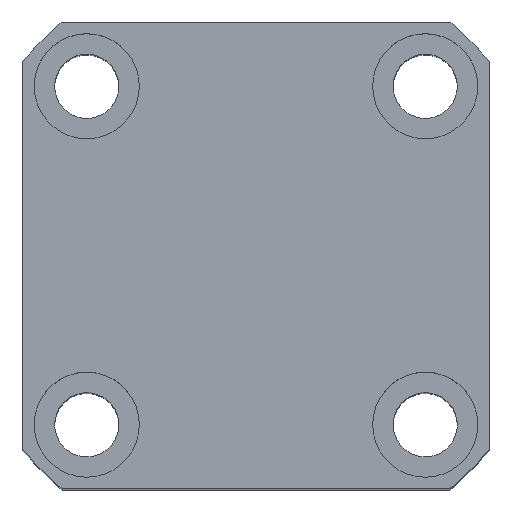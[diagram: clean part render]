
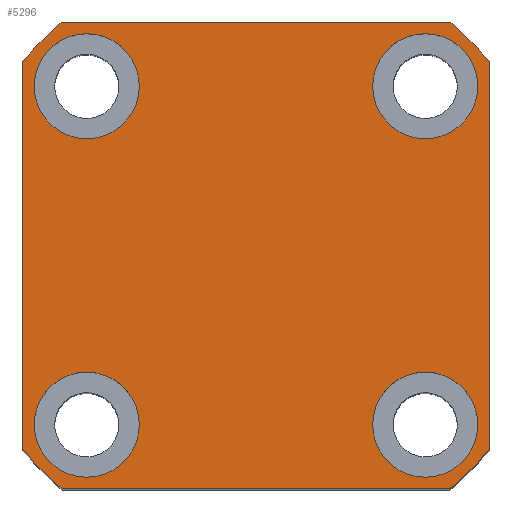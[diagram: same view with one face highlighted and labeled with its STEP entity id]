
A CAD part, top view. The second image highlights one B-rep face of the part: STEP entity #5296.
In plain terms, the highlighted planar face has unit normal (0, 0, 1).
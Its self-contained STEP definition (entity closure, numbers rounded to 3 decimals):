
#2930=FACE_BOUND('',#6324,.T.);
#2931=FACE_BOUND('',#6325,.T.);
#2932=FACE_BOUND('',#6326,.T.);
#2933=FACE_BOUND('',#6327,.T.);
#2934=FACE_BOUND('',#6328,.T.);
#3064=LINE('',#24044,#3921);
#3072=LINE('',#24777,#3929);
#3076=LINE('',#24789,#3933);
#3080=LINE('',#24801,#3937);
#3921=VECTOR('',#13139,1.);
#3929=VECTOR('',#13303,1.);
#3933=VECTOR('',#13315,1.);
#3937=VECTOR('',#13327,1.);
#4855=PLANE('',#12540);
#5296=ADVANCED_FACE('',(#2930,#2931,#2932,#2933,#2934),#4855,.T.);
#6324=EDGE_LOOP('',(#7560));
#6325=EDGE_LOOP('',(#7561));
#6326=EDGE_LOOP('',(#7562));
#6327=EDGE_LOOP('',(#7563));
#6328=EDGE_LOOP('',(#7564,#7565,#7566,#7567,#7568,#7569,#7570,#7571));
#6832=CIRCLE('',#12489,9.);
#6834=CIRCLE('',#12492,9.);
#6836=CIRCLE('',#12495,9.);
#6838=CIRCLE('',#12498,9.);
#6857=CIRCLE('',#12526,52.);
#6859=CIRCLE('',#12530,52.);
#6861=CIRCLE('',#12534,52.);
#6863=CIRCLE('',#12538,52.);
#7560=ORIENTED_EDGE('',*,*,#10955,.F.);
#7561=ORIENTED_EDGE('',*,*,#10957,.F.);
#7562=ORIENTED_EDGE('',*,*,#10959,.F.);
#7563=ORIENTED_EDGE('',*,*,#10961,.F.);
#7564=ORIENTED_EDGE('',*,*,#10981,.T.);
#7565=ORIENTED_EDGE('',*,*,#10984,.T.);
#7566=ORIENTED_EDGE('',*,*,#10987,.T.);
#7567=ORIENTED_EDGE('',*,*,#10990,.T.);
#7568=ORIENTED_EDGE('',*,*,#10993,.T.);
#7569=ORIENTED_EDGE('',*,*,#10996,.T.);
#7570=ORIENTED_EDGE('',*,*,#10998,.T.);
#7571=ORIENTED_EDGE('',*,*,#10883,.T.);
#9848=VERTEX_POINT('',#24043);
#9849=VERTEX_POINT('',#24045);
#9917=VERTEX_POINT('',#24708);
#9919=VERTEX_POINT('',#24713);
#9921=VERTEX_POINT('',#24718);
#9923=VERTEX_POINT('',#24723);
#9942=VERTEX_POINT('',#24770);
#9944=VERTEX_POINT('',#24776);
#9946=VERTEX_POINT('',#24782);
#9948=VERTEX_POINT('',#24788);
#9950=VERTEX_POINT('',#24794);
#9952=VERTEX_POINT('',#24800);
#10883=EDGE_CURVE('',#9849,#9848,#3064,.T.);
#10955=EDGE_CURVE('',#9917,#9917,#6832,.T.);
#10957=EDGE_CURVE('',#9919,#9919,#6834,.T.);
#10959=EDGE_CURVE('',#9921,#9921,#6836,.T.);
#10961=EDGE_CURVE('',#9923,#9923,#6838,.T.);
#10981=EDGE_CURVE('',#9848,#9942,#6857,.T.);
#10984=EDGE_CURVE('',#9942,#9944,#3072,.T.);
#10987=EDGE_CURVE('',#9944,#9946,#6859,.T.);
#10990=EDGE_CURVE('',#9946,#9948,#3076,.T.);
#10993=EDGE_CURVE('',#9948,#9950,#6861,.T.);
#10996=EDGE_CURVE('',#9950,#9952,#3080,.T.);
#10998=EDGE_CURVE('',#9952,#9849,#6863,.T.);
#12489=AXIS2_PLACEMENT_3D('',#24707,#13222,#13223);
#12492=AXIS2_PLACEMENT_3D('',#24712,#13228,#13229);
#12495=AXIS2_PLACEMENT_3D('',#24717,#13234,#13235);
#12498=AXIS2_PLACEMENT_3D('',#24722,#13240,#13241);
#12526=AXIS2_PLACEMENT_3D('',#24771,#13297,#13298);
#12530=AXIS2_PLACEMENT_3D('',#24783,#13309,#13310);
#12534=AXIS2_PLACEMENT_3D('',#24795,#13321,#13322);
#12538=AXIS2_PLACEMENT_3D('',#24804,#13332,#13333);
#12540=AXIS2_PLACEMENT_3D('',#24806,#13336,#13337);
#13139=DIRECTION('',(-1.,0.,0.));
#13222=DIRECTION('',(0.,0.,1.));
#13223=DIRECTION('',(1.,0.,0.));
#13228=DIRECTION('',(0.,0.,1.));
#13229=DIRECTION('',(1.,0.,0.));
#13234=DIRECTION('',(0.,0.,1.));
#13235=DIRECTION('',(1.,0.,0.));
#13240=DIRECTION('',(0.,0.,1.));
#13241=DIRECTION('',(1.,0.,0.));
#13297=DIRECTION('',(0.,0.,1.));
#13298=DIRECTION('',(1.,0.,0.));
#13303=DIRECTION('',(0.,-1.,0.));
#13309=DIRECTION('',(0.,0.,1.));
#13310=DIRECTION('',(1.,0.,0.));
#13315=DIRECTION('',(1.,0.,0.));
#13321=DIRECTION('',(0.,0.,1.));
#13322=DIRECTION('',(1.,0.,0.));
#13327=DIRECTION('',(0.,1.,0.));
#13332=DIRECTION('',(0.,0.,1.));
#13333=DIRECTION('',(1.,0.,0.));
#13336=DIRECTION('',(0.,0.,1.));
#13337=DIRECTION('',(-1.,0.,0.));
#24043=CARTESIAN_POINT('',(-33.226,40.,55.));
#24044=CARTESIAN_POINT('',(-33.226,40.,55.));
#24045=CARTESIAN_POINT('',(33.226,40.,55.));
#24707=CARTESIAN_POINT('',(29.,-29.,55.));
#24708=CARTESIAN_POINT('',(38.,-29.,55.));
#24712=CARTESIAN_POINT('',(-29.,-29.,55.));
#24713=CARTESIAN_POINT('',(-20.,-29.,55.));
#24717=CARTESIAN_POINT('',(-29.,29.,55.));
#24718=CARTESIAN_POINT('',(-20.,29.,55.));
#24722=CARTESIAN_POINT('',(29.,29.,55.));
#24723=CARTESIAN_POINT('',(38.,29.,55.));
#24770=CARTESIAN_POINT('',(-40.,33.226,55.));
#24771=CARTESIAN_POINT('',(0.,0.,55.));
#24776=CARTESIAN_POINT('',(-40.,-33.226,55.));
#24777=CARTESIAN_POINT('',(-40.,33.226,55.));
#24782=CARTESIAN_POINT('',(-33.226,-40.,55.));
#24783=CARTESIAN_POINT('',(0.,0.,55.));
#24788=CARTESIAN_POINT('',(33.226,-40.,55.));
#24789=CARTESIAN_POINT('',(-33.226,-40.,55.));
#24794=CARTESIAN_POINT('',(40.,-33.226,55.));
#24795=CARTESIAN_POINT('',(0.,0.,55.));
#24800=CARTESIAN_POINT('',(40.,33.226,55.));
#24801=CARTESIAN_POINT('',(40.,33.226,55.));
#24804=CARTESIAN_POINT('',(0.,0.,55.));
#24806=CARTESIAN_POINT('',(0.,0.,55.));
